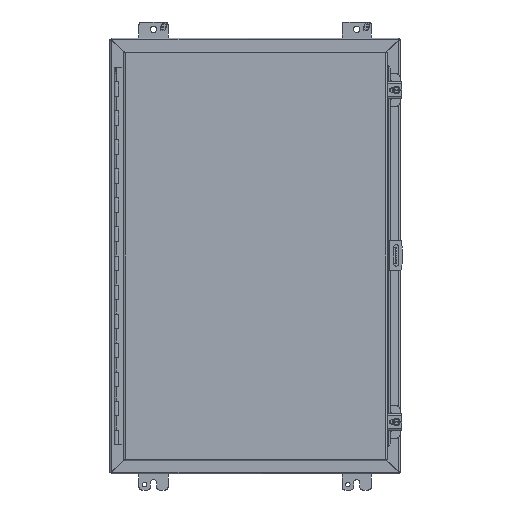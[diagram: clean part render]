
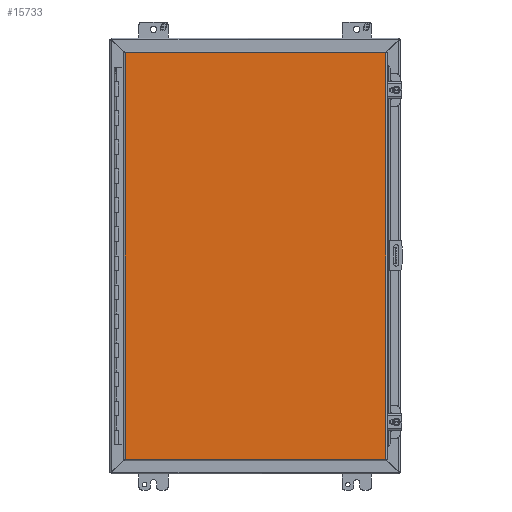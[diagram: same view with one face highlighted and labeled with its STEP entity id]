
A CAD part, front view. The second image highlights one B-rep face of the part: STEP entity #15733.
In plain terms, the highlighted planar face has unit normal (0, -1, 0).
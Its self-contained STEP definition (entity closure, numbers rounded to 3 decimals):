
#1222=LINE('',#23511,#2755);
#1223=LINE('',#23514,#2756);
#1224=LINE('',#23516,#2757);
#1225=LINE('',#23518,#2758);
#2755=VECTOR('',#19071,1000.);
#2756=VECTOR('',#19072,1000.);
#2757=VECTOR('',#19073,1000.);
#2758=VECTOR('',#19074,1000.);
#5590=ORIENTED_EDGE('',*,*,#9444,.T.);
#5591=ORIENTED_EDGE('',*,*,#9445,.T.);
#5592=ORIENTED_EDGE('',*,*,#9446,.T.);
#5593=ORIENTED_EDGE('',*,*,#9447,.T.);
#9444=EDGE_CURVE('',#11480,#11481,#1222,.T.);
#9445=EDGE_CURVE('',#11481,#11482,#1223,.T.);
#9446=EDGE_CURVE('',#11482,#11483,#1224,.T.);
#9447=EDGE_CURVE('',#11483,#11480,#1225,.T.);
#11480=VERTEX_POINT('',#23512);
#11481=VERTEX_POINT('',#23513);
#11482=VERTEX_POINT('',#23515);
#11483=VERTEX_POINT('',#23517);
#13208=EDGE_LOOP('',(#5590,#5591,#5592,#5593));
#14201=FACE_BOUND('',#13208,.T.);
#15070=PLANE('',#16898);
#15733=ADVANCED_FACE('',(#14201),#15070,.T.);
#16898=AXIS2_PLACEMENT_3D('',#23510,#19069,#19070);
#19069=DIRECTION('',(0.,-1.,0.));
#19070=DIRECTION('',(0.,0.,-1.));
#19071=DIRECTION('',(0.,0.,-1.));
#19072=DIRECTION('',(1.,0.,0.));
#19073=DIRECTION('',(0.,0.,1.));
#19074=DIRECTION('',(-1.,0.,0.));
#23510=CARTESIAN_POINT('',(-228.244,0.,-355.46));
#23511=CARTESIAN_POINT('',(-228.244,0.,355.46));
#23512=CARTESIAN_POINT('',(-228.244,0.,355.46));
#23513=CARTESIAN_POINT('',(-228.244,0.,-355.46));
#23514=CARTESIAN_POINT('',(-228.244,0.,-355.46));
#23515=CARTESIAN_POINT('',(228.244,0.,-355.46));
#23516=CARTESIAN_POINT('',(228.244,0.,-355.46));
#23517=CARTESIAN_POINT('',(228.244,0.,355.46));
#23518=CARTESIAN_POINT('',(228.244,0.,355.46));
